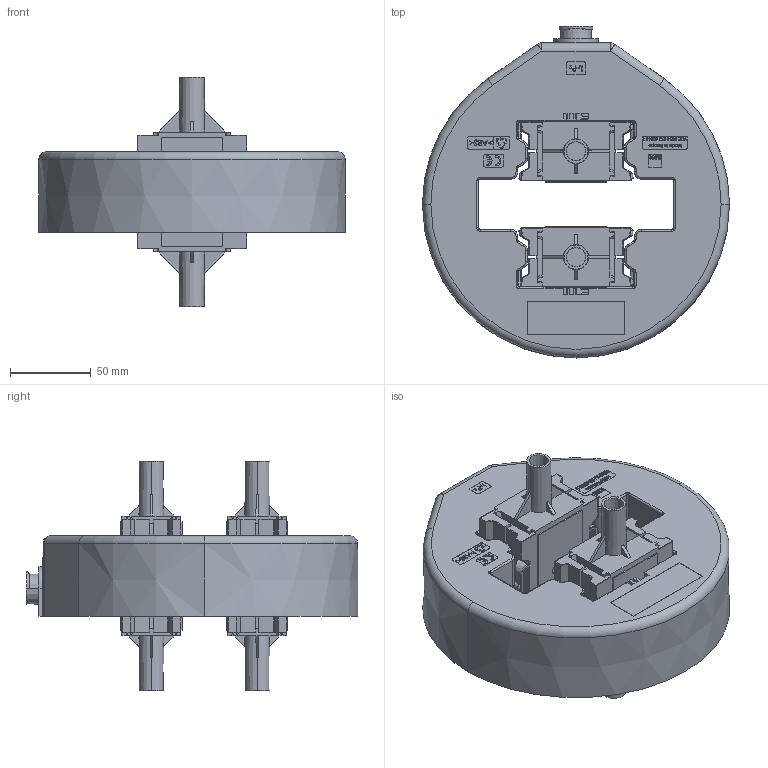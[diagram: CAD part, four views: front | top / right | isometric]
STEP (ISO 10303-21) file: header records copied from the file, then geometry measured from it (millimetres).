
FILE_DESCRIPTION (( 'STEP AP214' ), '1' );
FILE_NAME ('ASG_123_Mehrkern-Hochstromwandler_kompl.STEP', '2012-01-13T14:36:20', ( 'User' ), ( 'EnDeCo GmbH' ), 'SwSTEP 2.0', 'SolidWorks 2010', '' );
FILE_SCHEMA (( 'AUTOMOTIVE_DESIGN' ));
Length unit declared in the file: millimetre
Products named in the file (3): ASG_123_Mehrkern-Hochstromwandler; SM70-00_Spannelement_kompl_7.3.3001_01; ASG_123_Mehrkern-Hochstromwandler_kompl
Assembly tree (3 placements, depth 2):
  ASG_123_Mehrkern-Hochstromwandler_kompl
    SM70-00_Spannelement_kompl_7.3.3001_01  x2
    ASG_123_Mehrkern-Hochstromwandler
Bounding box: 190 x 205.3 x 142.2 mm (x, y, z)
Volume: 1331492.2 mm3; surface area: 154359.8 mm2
Topology: 3 solids, 11 shells, 2101 faces, 5361 edges, 3348 vertices
Faces by surface type: plane 988, cylinder 482, bspline 315, cone 189, sphere 84, torus 43
Entity records: 57433 total; most frequent: CARTESIAN_POINT 21014, ORIENTED_EDGE 8078, DIRECTION 6738, EDGE_CURVE 4039, VERTEX_POINT 2558, LINE 2554, VECTOR 2554, AXIS2_PLACEMENT_3D 2092
